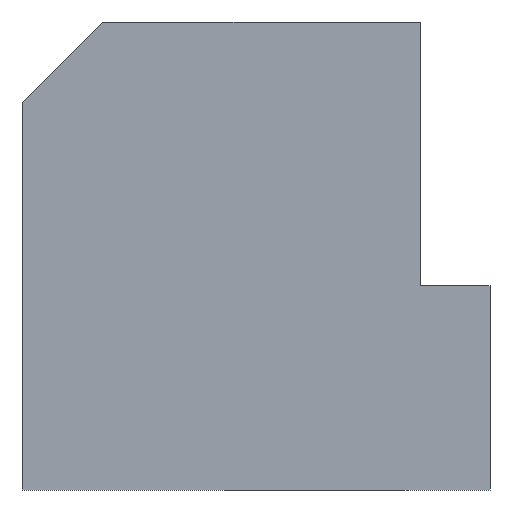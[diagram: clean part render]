
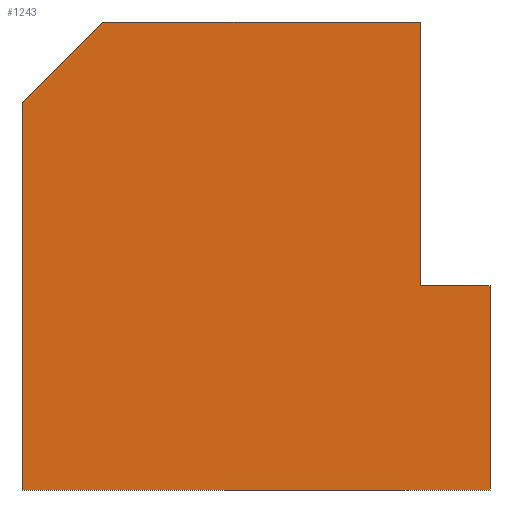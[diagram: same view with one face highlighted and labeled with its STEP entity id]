
A CAD part, front view. The second image highlights one B-rep face of the part: STEP entity #1243.
In plain terms, the highlighted planar face has unit normal (0, -1, 0).
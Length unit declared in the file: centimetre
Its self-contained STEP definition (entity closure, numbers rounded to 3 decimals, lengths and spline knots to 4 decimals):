
#12 = LINE ( 'NONE', #1146, #237 ) ;
#26 = DIRECTION ( 'NONE',  ( 0., 0., 1. ) ) ;
#29 = EDGE_CURVE ( 'NONE', #115, #148, #267, .T. ) ;
#36 = ORIENTED_EDGE ( 'NONE', *, *, #158, .T. ) ;
#115 = VERTEX_POINT ( 'NONE', #188 ) ;
#122 = LINE ( 'NONE', #130, #634 ) ;
#130 = CARTESIAN_POINT ( 'NONE',  ( 0., 0., 0. ) ) ;
#131 = DIRECTION ( 'NONE',  ( 0., 0., -1. ) ) ;
#132 = VECTOR ( 'NONE', #26, 100. ) ;
#148 = VERTEX_POINT ( 'NONE', #930 ) ;
#158 = EDGE_CURVE ( 'NONE', #148, #772, #429, .T. ) ;
#169 = ORIENTED_EDGE ( 'NONE', *, *, #422, .T. ) ;
#178 = EDGE_CURVE ( 'NONE', #115, #1077, #796, .T. ) ;
#188 = CARTESIAN_POINT ( 'NONE',  ( 172.3369, 0., 1000. ) ) ;
#209 = PLANE ( 'NONE',  #927 ) ;
#236 = VERTEX_POINT ( 'NONE', #273 ) ;
#237 = VECTOR ( 'NONE', #424, 100. ) ;
#265 = LINE ( 'NONE', #750, #1199 ) ;
#267 = LINE ( 'NONE', #961, #675 ) ;
#273 = CARTESIAN_POINT ( 'NONE',  ( 1000., 0., 436.4413 ) ) ;
#316 = DIRECTION ( 'NONE',  ( 0., 1., 0. ) ) ;
#361 = CARTESIAN_POINT ( 'NONE',  ( 851.485, 0., 1000. ) ) ;
#365 = ORIENTED_EDGE ( 'NONE', *, *, #804, .F. ) ;
#422 = EDGE_CURVE ( 'NONE', #772, #1197, #122, .T. ) ;
#424 = DIRECTION ( 'NONE',  ( 1., 0., 0. ) ) ;
#429 = LINE ( 'NONE', #743, #606 ) ;
#481 = ORIENTED_EDGE ( 'NONE', *, *, #1136, .F. ) ;
#487 = DIRECTION ( 'NONE',  ( 0., 0., 1. ) ) ;
#503 = FACE_OUTER_BOUND ( 'NONE', #566, .T. ) ;
#528 = LINE ( 'NONE', #647, #132 ) ;
#566 = EDGE_LOOP ( 'NONE', ( #365, #883, #1060, #1183, #36, #169, #481 ) ) ;
#580 = DIRECTION ( 'NONE',  ( -0.707, 0., -0.707 ) ) ;
#606 = VECTOR ( 'NONE', #131, 100. ) ;
#611 = CARTESIAN_POINT ( 'NONE',  ( 0., 0., 1000. ) ) ;
#634 = VECTOR ( 'NONE', #801, 100. ) ;
#647 = CARTESIAN_POINT ( 'NONE',  ( 851.485, 0., 436.4413 ) ) ;
#675 = VECTOR ( 'NONE', #580, 100. ) ;
#693 = CARTESIAN_POINT ( 'NONE',  ( 0., 0., 1000. ) ) ;
#743 = CARTESIAN_POINT ( 'NONE',  ( 0., 0., 1000. ) ) ;
#750 = CARTESIAN_POINT ( 'NONE',  ( 1000., 0., 1000. ) ) ;
#767 = EDGE_CURVE ( 'NONE', #1207, #1077, #528, .T. ) ;
#772 = VERTEX_POINT ( 'NONE', #829 ) ;
#796 = LINE ( 'NONE', #693, #896 ) ;
#801 = DIRECTION ( 'NONE',  ( 1., 0., 0. ) ) ;
#804 = EDGE_CURVE ( 'NONE', #1207, #236, #12, .T. ) ;
#829 = CARTESIAN_POINT ( 'NONE',  ( 0., 0., 0. ) ) ;
#883 = ORIENTED_EDGE ( 'NONE', *, *, #767, .T. ) ;
#896 = VECTOR ( 'NONE', #993, 100. ) ;
#927 = AXIS2_PLACEMENT_3D ( 'NONE', #611, #316, #487 ) ;
#930 = CARTESIAN_POINT ( 'NONE',  ( 0., 0., 827.6631 ) ) ;
#961 = CARTESIAN_POINT ( 'NONE',  ( 172.3369, 0., 1000. ) ) ;
#979 = CARTESIAN_POINT ( 'NONE',  ( 851.485, 0., 436.4413 ) ) ;
#993 = DIRECTION ( 'NONE',  ( 1., 0., 0. ) ) ;
#1060 = ORIENTED_EDGE ( 'NONE', *, *, #178, .F. ) ;
#1077 = VERTEX_POINT ( 'NONE', #361 ) ;
#1101 = DIRECTION ( 'NONE',  ( 0., 0., -1. ) ) ;
#1136 = EDGE_CURVE ( 'NONE', #236, #1197, #265, .T. ) ;
#1146 = CARTESIAN_POINT ( 'NONE',  ( 851.485, 0., 436.4413 ) ) ;
#1183 = ORIENTED_EDGE ( 'NONE', *, *, #29, .T. ) ;
#1197 = VERTEX_POINT ( 'NONE', #1296 ) ;
#1199 = VECTOR ( 'NONE', #1101, 100. ) ;
#1207 = VERTEX_POINT ( 'NONE', #979 ) ;
#1243 = ADVANCED_FACE ( 'NONE', ( #503 ), #209, .F. ) ;
#1296 = CARTESIAN_POINT ( 'NONE',  ( 1000., 0., 0. ) ) ;
